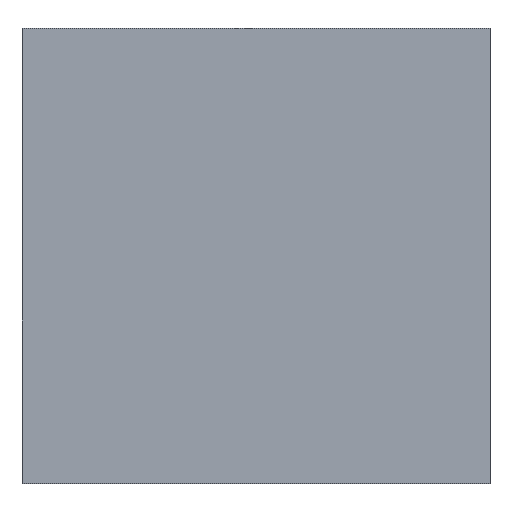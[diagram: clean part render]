
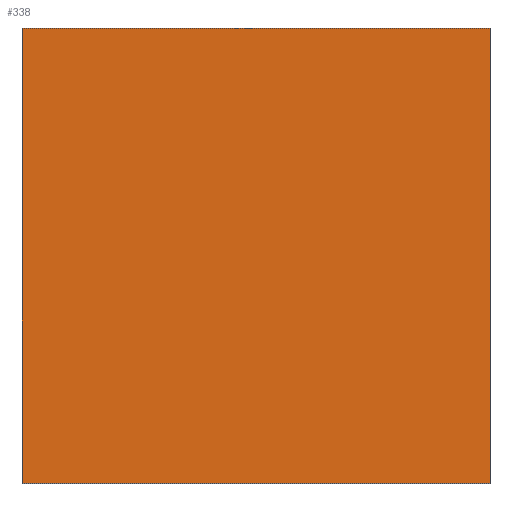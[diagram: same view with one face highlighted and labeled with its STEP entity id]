
A CAD part, top view. The second image highlights one B-rep face of the part: STEP entity #338.
In plain terms, the highlighted planar face has unit normal (0, 0, 1).
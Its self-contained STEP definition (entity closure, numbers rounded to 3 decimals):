
#24 = VERTEX_POINT('',#25);
#25 = CARTESIAN_POINT('',(-1.8,-1.75,1.25));
#32 = PLANE('',#33);
#33 = AXIS2_PLACEMENT_3D('',#34,#35,#36);
#34 = CARTESIAN_POINT('',(-1.8,-1.75,0.));
#35 = DIRECTION('',(1.,0.,-0.));
#36 = DIRECTION('',(0.,0.,1.));
#44 = PLANE('',#45);
#45 = AXIS2_PLACEMENT_3D('',#46,#47,#48);
#46 = CARTESIAN_POINT('',(-1.8,-1.75,0.));
#47 = DIRECTION('',(-0.,1.,0.));
#48 = DIRECTION('',(0.,0.,1.));
#85 = VERTEX_POINT('',#86);
#86 = CARTESIAN_POINT('',(-1.8,1.75,1.25));
#100 = PLANE('',#101);
#101 = AXIS2_PLACEMENT_3D('',#102,#103,#104);
#102 = CARTESIAN_POINT('',(-1.8,1.75,0.));
#103 = DIRECTION('',(-0.,1.,0.));
#104 = DIRECTION('',(0.,0.,1.));
#112 = EDGE_CURVE('',#24,#85,#113,.T.);
#113 = SURFACE_CURVE('',#114,(#118,#125),.PCURVE_S1.);
#114 = LINE('',#115,#116);
#115 = CARTESIAN_POINT('',(-1.8,-1.75,1.25));
#116 = VECTOR('',#117,1.);
#117 = DIRECTION('',(-0.,1.,0.));
#118 = PCURVE('',#32,#119);
#119 = DEFINITIONAL_REPRESENTATION('',(#120),#124);
#120 = LINE('',#121,#122);
#121 = CARTESIAN_POINT('',(1.25,0.));
#122 = VECTOR('',#123,1.);
#123 = DIRECTION('',(0.,-1.));
#124 = ( GEOMETRIC_REPRESENTATION_CONTEXT(2) 
PARAMETRIC_REPRESENTATION_CONTEXT() REPRESENTATION_CONTEXT('2D SPACE',''
  ) );
#125 = PCURVE('',#126,#131);
#126 = PLANE('',#127);
#127 = AXIS2_PLACEMENT_3D('',#128,#129,#130);
#128 = CARTESIAN_POINT('',(-1.8,-1.75,1.25));
#129 = DIRECTION('',(0.,0.,1.));
#130 = DIRECTION('',(1.,0.,-0.));
#131 = DEFINITIONAL_REPRESENTATION('',(#132),#136);
#132 = LINE('',#133,#134);
#133 = CARTESIAN_POINT('',(0.,0.));
#134 = VECTOR('',#135,1.);
#135 = DIRECTION('',(0.,1.));
#136 = ( GEOMETRIC_REPRESENTATION_CONTEXT(2) 
PARAMETRIC_REPRESENTATION_CONTEXT() REPRESENTATION_CONTEXT('2D SPACE',''
  ) );
#144 = VERTEX_POINT('',#145);
#145 = CARTESIAN_POINT('',(1.8,-1.75,1.25));
#152 = PLANE('',#153);
#153 = AXIS2_PLACEMENT_3D('',#154,#155,#156);
#154 = CARTESIAN_POINT('',(1.8,-1.75,0.));
#155 = DIRECTION('',(1.,0.,-0.));
#156 = DIRECTION('',(0.,0.,1.));
#195 = VERTEX_POINT('',#196);
#196 = CARTESIAN_POINT('',(1.8,1.75,1.25));
#217 = EDGE_CURVE('',#144,#195,#218,.T.);
#218 = SURFACE_CURVE('',#219,(#223,#230),.PCURVE_S1.);
#219 = LINE('',#220,#221);
#220 = CARTESIAN_POINT('',(1.8,-1.75,1.25));
#221 = VECTOR('',#222,1.);
#222 = DIRECTION('',(-0.,1.,0.));
#223 = PCURVE('',#152,#224);
#224 = DEFINITIONAL_REPRESENTATION('',(#225),#229);
#225 = LINE('',#226,#227);
#226 = CARTESIAN_POINT('',(1.25,0.));
#227 = VECTOR('',#228,1.);
#228 = DIRECTION('',(0.,-1.));
#229 = ( GEOMETRIC_REPRESENTATION_CONTEXT(2) 
PARAMETRIC_REPRESENTATION_CONTEXT() REPRESENTATION_CONTEXT('2D SPACE',''
  ) );
#230 = PCURVE('',#126,#231);
#231 = DEFINITIONAL_REPRESENTATION('',(#232),#236);
#232 = LINE('',#233,#234);
#233 = CARTESIAN_POINT('',(3.6,0.));
#234 = VECTOR('',#235,1.);
#235 = DIRECTION('',(0.,1.));
#236 = ( GEOMETRIC_REPRESENTATION_CONTEXT(2) 
PARAMETRIC_REPRESENTATION_CONTEXT() REPRESENTATION_CONTEXT('2D SPACE',''
  ) );
#263 = EDGE_CURVE('',#24,#144,#264,.T.);
#264 = SURFACE_CURVE('',#265,(#269,#276),.PCURVE_S1.);
#265 = LINE('',#266,#267);
#266 = CARTESIAN_POINT('',(-1.8,-1.75,1.25));
#267 = VECTOR('',#268,1.);
#268 = DIRECTION('',(1.,0.,-0.));
#269 = PCURVE('',#44,#270);
#270 = DEFINITIONAL_REPRESENTATION('',(#271),#275);
#271 = LINE('',#272,#273);
#272 = CARTESIAN_POINT('',(1.25,0.));
#273 = VECTOR('',#274,1.);
#274 = DIRECTION('',(0.,1.));
#275 = ( GEOMETRIC_REPRESENTATION_CONTEXT(2) 
PARAMETRIC_REPRESENTATION_CONTEXT() REPRESENTATION_CONTEXT('2D SPACE',''
  ) );
#276 = PCURVE('',#126,#277);
#277 = DEFINITIONAL_REPRESENTATION('',(#278),#282);
#278 = LINE('',#279,#280);
#279 = CARTESIAN_POINT('',(0.,0.));
#280 = VECTOR('',#281,1.);
#281 = DIRECTION('',(1.,0.));
#282 = ( GEOMETRIC_REPRESENTATION_CONTEXT(2) 
PARAMETRIC_REPRESENTATION_CONTEXT() REPRESENTATION_CONTEXT('2D SPACE',''
  ) );
#310 = EDGE_CURVE('',#85,#195,#311,.T.);
#311 = SURFACE_CURVE('',#312,(#316,#323),.PCURVE_S1.);
#312 = LINE('',#313,#314);
#313 = CARTESIAN_POINT('',(-1.8,1.75,1.25));
#314 = VECTOR('',#315,1.);
#315 = DIRECTION('',(1.,0.,-0.));
#316 = PCURVE('',#100,#317);
#317 = DEFINITIONAL_REPRESENTATION('',(#318),#322);
#318 = LINE('',#319,#320);
#319 = CARTESIAN_POINT('',(1.25,0.));
#320 = VECTOR('',#321,1.);
#321 = DIRECTION('',(0.,1.));
#322 = ( GEOMETRIC_REPRESENTATION_CONTEXT(2) 
PARAMETRIC_REPRESENTATION_CONTEXT() REPRESENTATION_CONTEXT('2D SPACE',''
  ) );
#323 = PCURVE('',#126,#324);
#324 = DEFINITIONAL_REPRESENTATION('',(#325),#329);
#325 = LINE('',#326,#327);
#326 = CARTESIAN_POINT('',(0.,3.5));
#327 = VECTOR('',#328,1.);
#328 = DIRECTION('',(1.,0.));
#329 = ( GEOMETRIC_REPRESENTATION_CONTEXT(2) 
PARAMETRIC_REPRESENTATION_CONTEXT() REPRESENTATION_CONTEXT('2D SPACE',''
  ) );
#338 = ADVANCED_FACE('',(#339),#126,.T.);
#339 = FACE_BOUND('',#340,.T.);
#340 = EDGE_LOOP('',(#341,#342,#343,#344));
#341 = ORIENTED_EDGE('',*,*,#112,.F.);
#342 = ORIENTED_EDGE('',*,*,#263,.T.);
#343 = ORIENTED_EDGE('',*,*,#217,.T.);
#344 = ORIENTED_EDGE('',*,*,#310,.F.);
